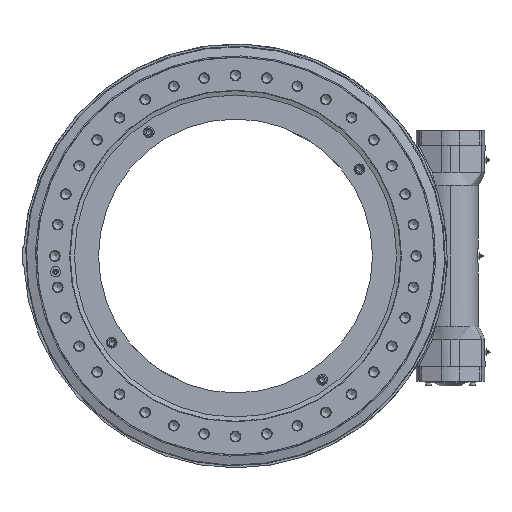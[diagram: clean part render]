
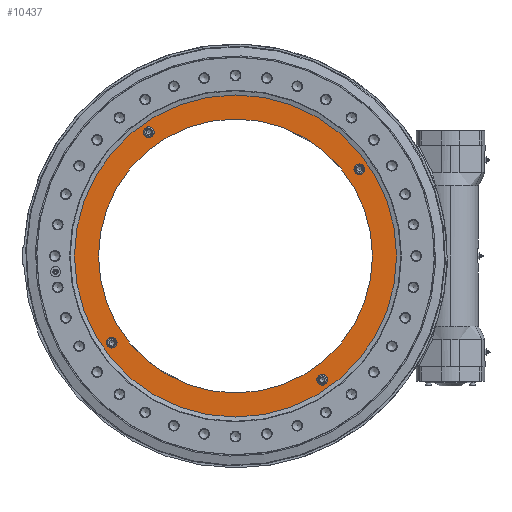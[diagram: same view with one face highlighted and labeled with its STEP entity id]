
A CAD part, left-side view. The second image highlights one B-rep face of the part: STEP entity #10437.
In plain terms, the highlighted planar face has unit normal (-1, 0, 0).
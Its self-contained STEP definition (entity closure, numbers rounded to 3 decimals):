
#700 = VERTEX_POINT ( 'NONE', #40402 ) ;
#1631 = ORIENTED_EDGE ( 'NONE', *, *, #36655, .F. ) ;
#2279 = DIRECTION ( 'NONE',  ( 0., 0., 1. ) ) ;
#2289 = DIRECTION ( 'NONE',  ( -1., 0., 0. ) ) ;
#4573 = CARTESIAN_POINT ( 'NONE',  ( -38.8, 0., 0. ) ) ;
#5551 = CARTESIAN_POINT ( 'NONE',  ( -38.8, 162.035, 231.41 ) ) ;
#6338 = VERTEX_POINT ( 'NONE', #10635 ) ;
#6954 = EDGE_CURVE ( 'NONE', #39228, #39228, #30698, .T. ) ;
#7306 = CARTESIAN_POINT ( 'NONE',  ( -38.8, -231.41, 162.035 ) ) ;
#7665 = DIRECTION ( 'NONE',  ( 0., -1., 0. ) ) ;
#10310 = AXIS2_PLACEMENT_3D ( 'NONE', #11657, #44728, #38073 ) ;
#10437 = ADVANCED_FACE ( 'NONE', ( #40804, #31331, #42010, #28913, #21832, #41967 ), #40911, .F. ) ;
#10635 = CARTESIAN_POINT ( 'NONE',  ( -38.8, -162.035, -221.41 ) ) ;
#11354 = CIRCLE ( 'NONE', #21737, 10. ) ;
#11657 = CARTESIAN_POINT ( 'NONE',  ( -38.8, 0., 0. ) ) ;
#12528 = AXIS2_PLACEMENT_3D ( 'NONE', #4573, #35015, #22945 ) ;
#12655 = EDGE_LOOP ( 'NONE', ( #26404 ) ) ;
#12830 = CARTESIAN_POINT ( 'NONE',  ( -38.8, -221.41, 162.035 ) ) ;
#14546 = CIRCLE ( 'NONE', #39336, 10. ) ;
#14905 = VERTEX_POINT ( 'NONE', #12830 ) ;
#15519 = EDGE_LOOP ( 'NONE', ( #46219 ) ) ;
#16322 = DIRECTION ( 'NONE',  ( -1., 0., 0. ) ) ;
#18176 = CIRCLE ( 'NONE', #20928, 256. ) ;
#19170 = EDGE_LOOP ( 'NONE', ( #44309 ) ) ;
#19423 = CARTESIAN_POINT ( 'NONE',  ( -38.8, 162.035, 221.41 ) ) ;
#19787 = EDGE_CURVE ( 'NONE', #14905, #14905, #14546, .T. ) ;
#20132 = EDGE_LOOP ( 'NONE', ( #48194 ) ) ;
#20541 = VERTEX_POINT ( 'NONE', #19423 ) ;
#20795 = CARTESIAN_POINT ( 'NONE',  ( -38.8, -162.035, -231.41 ) ) ;
#20928 = AXIS2_PLACEMENT_3D ( 'NONE', #32271, #2289, #40174 ) ;
#21130 = DIRECTION ( 'NONE',  ( -1., 0., 0. ) ) ;
#21334 = CIRCLE ( 'NONE', #45178, 10. ) ;
#21737 = AXIS2_PLACEMENT_3D ( 'NONE', #5551, #16322, #42806 ) ;
#21832 = FACE_BOUND ( 'NONE', #15519, .T. ) ;
#22945 = DIRECTION ( 'NONE',  ( 0., 1., 0. ) ) ;
#26107 = EDGE_CURVE ( 'NONE', #700, #700, #18176, .T. ) ;
#26404 = ORIENTED_EDGE ( 'NONE', *, *, #6954, .T. ) ;
#27049 = CARTESIAN_POINT ( 'NONE',  ( -38.8, 231.41, -162.035 ) ) ;
#28913 = FACE_BOUND ( 'NONE', #34328, .T. ) ;
#28964 = ORIENTED_EDGE ( 'NONE', *, *, #19787, .F. ) ;
#30190 = DIRECTION ( 'NONE',  ( -1., 0., 0. ) ) ;
#30698 = CIRCLE ( 'NONE', #12528, 309.5 ) ;
#31051 = EDGE_CURVE ( 'NONE', #33616, #33616, #21334, .T. ) ;
#31293 = AXIS2_PLACEMENT_3D ( 'NONE', #20795, #21130, #2279 ) ;
#31331 = FACE_BOUND ( 'NONE', #20132, .T. ) ;
#31997 = EDGE_CURVE ( 'NONE', #6338, #6338, #40122, .T. ) ;
#32271 = CARTESIAN_POINT ( 'NONE',  ( -38.8, 0., 0. ) ) ;
#32383 = CARTESIAN_POINT ( 'NONE',  ( -38.8, 309.5, 0. ) ) ;
#33616 = VERTEX_POINT ( 'NONE', #37094 ) ;
#33788 = DIRECTION ( 'NONE',  ( 0., 1., 0. ) ) ;
#34328 = EDGE_LOOP ( 'NONE', ( #28964 ) ) ;
#35015 = DIRECTION ( 'NONE',  ( -1., 0., 0. ) ) ;
#36655 = EDGE_CURVE ( 'NONE', #20541, #20541, #11354, .T. ) ;
#37094 = CARTESIAN_POINT ( 'NONE',  ( -38.8, 221.41, -162.035 ) ) ;
#38053 = DIRECTION ( 'NONE',  ( -1., 0., 0. ) ) ;
#38073 = DIRECTION ( 'NONE',  ( 0., -1., 0. ) ) ;
#39228 = VERTEX_POINT ( 'NONE', #32383 ) ;
#39336 = AXIS2_PLACEMENT_3D ( 'NONE', #7306, #38053, #33788 ) ;
#40122 = CIRCLE ( 'NONE', #31293, 10. ) ;
#40174 = DIRECTION ( 'NONE',  ( 0., 1., 0. ) ) ;
#40402 = CARTESIAN_POINT ( 'NONE',  ( -38.8, 256., 0. ) ) ;
#40804 = FACE_BOUND ( 'NONE', #45947, .T. ) ;
#40911 = PLANE ( 'NONE',  #10310 ) ;
#41967 = FACE_OUTER_BOUND ( 'NONE', #12655, .T. ) ;
#42010 = FACE_BOUND ( 'NONE', #19170, .T. ) ;
#42806 = DIRECTION ( 'NONE',  ( 0., 0., -1. ) ) ;
#44309 = ORIENTED_EDGE ( 'NONE', *, *, #31997, .F. ) ;
#44728 = DIRECTION ( 'NONE',  ( 1., 0., 0. ) ) ;
#45178 = AXIS2_PLACEMENT_3D ( 'NONE', #27049, #30190, #7665 ) ;
#45947 = EDGE_LOOP ( 'NONE', ( #1631 ) ) ;
#46219 = ORIENTED_EDGE ( 'NONE', *, *, #26107, .F. ) ;
#48194 = ORIENTED_EDGE ( 'NONE', *, *, #31051, .F. ) ;
